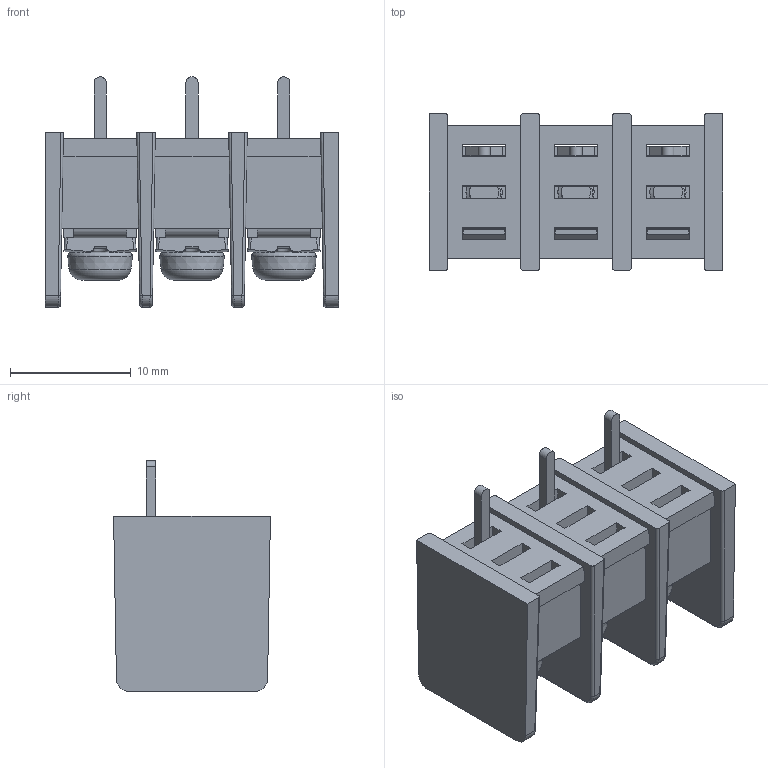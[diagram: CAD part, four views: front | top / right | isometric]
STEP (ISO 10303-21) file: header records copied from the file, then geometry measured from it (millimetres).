
FILE_DESCRIPTION((''),'2;1');
FILE_NAME('3PIN','2021-04-21T',('hanke'),(''),'CREO PARAMETRIC BY PTC INC, 2016260','CREO PARAMETRIC BY PTC INC, 2016260','');
FILE_SCHEMA(('CONFIG_CONTROL_DESIGN'));
Products named in the file (1): 3PIN
Bounding box: 24.36 x 13 x 19.1 mm (x, y, z)
Volume: 2198.3 mm3; surface area: 3869.5 mm2
Topology: 1 solids, 7 shells, 1090 faces, 3229 edges, 2101 vertices
Faces by surface type: plane 672, cylinder 204, bspline 83, torus 60, sphere 42, cone 29
Entity records: 51472 total; most frequent: CARTESIAN_POINT 23117, ORIENTED_EDGE 6446, DIRECTION 5333, EDGE_CURVE 3223, VERTEX_POINT 2101, VECTOR 1817, LINE 1817, AXIS2_PLACEMENT_3D 1758
